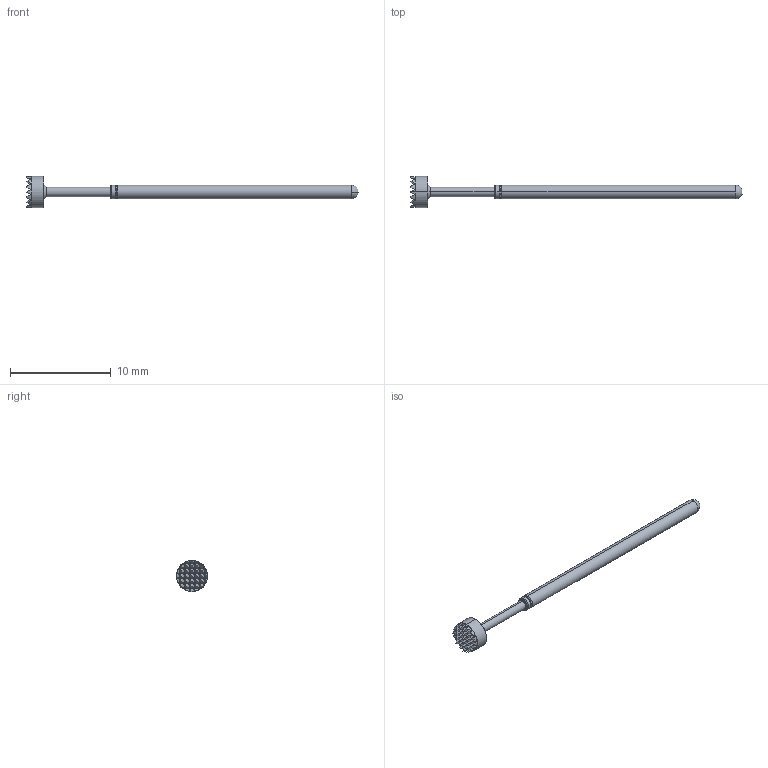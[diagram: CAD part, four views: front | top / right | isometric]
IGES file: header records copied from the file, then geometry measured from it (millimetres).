
Start section: SolidWorks IGES file using analytic representation for surfaces
Global section: file name: C:\Users\mrumschlag\Desktop\changes\new\test\POGO-25HM.IGS; native system: SolidWorks 2011; preprocessor: SolidWorks 2011; author: mrumschlag; date: 110714.155356; units: inch
Bounding box: 33.02 x 3.1 x 3.1 mm (x, y, z)
Surface area: 162.1 mm2 (no closed solid volume)
Topology: 0 solids, 0 shells, 178 faces, 786 edges, 786 vertices
Faces by surface type: bspline 160, revolution 18
